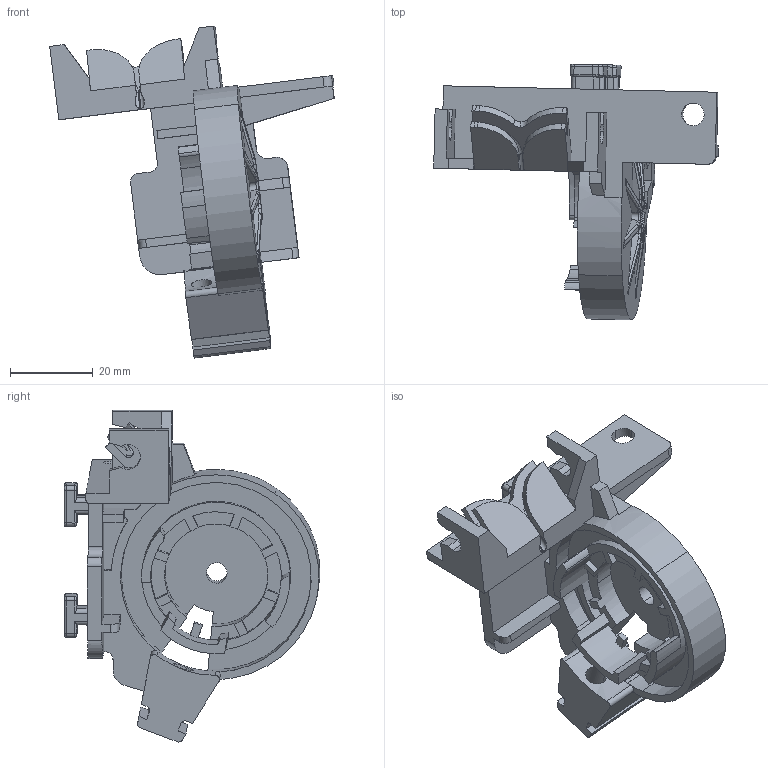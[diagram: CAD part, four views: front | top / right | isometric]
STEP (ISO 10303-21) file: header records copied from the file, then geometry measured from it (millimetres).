
FILE_DESCRIPTION(('CATIA V5 STEP Exchange'),'2;1');
FILE_NAME('G:\够快云库\系统集成开发部\1.部门成员\孙国\3D-stp打印件\20220215\SHT0010362-0924.stp','2022-02-15T02:43:21+00:00',('none'),('none'),'CATIA Version 5 Release 20 GA (IN-10)','CATIA V5 STEP AP214','none');
FILE_SCHEMA(('AUTOMOTIVE_DESIGN { 1 0 10303 214 1 1 1 1 }'));
Length unit declared in the file: millimetre
Products named in the file (1): SHT0010362
Bounding box: 68.91 x 61.93 x 80.4 mm (x, y, z)
Volume: 30093.5 mm3; surface area: 19663.8 mm2
Topology: 1 solids, 1 shells, 497 faces, 1394 edges, 898 vertices
Faces by surface type: plane 199, cylinder 165, bspline 88, torus 20, cone 12, extrusion 10, revolution 3
Entity records: 20455 total; most frequent: CARTESIAN_POINT 8920, ORIENTED_EDGE 2788, DIRECTION 1717, EDGE_CURVE 1394, VERTEX_POINT 898, AXIS2_PLACEMENT_3D 674, VECTOR 668, LINE 658
